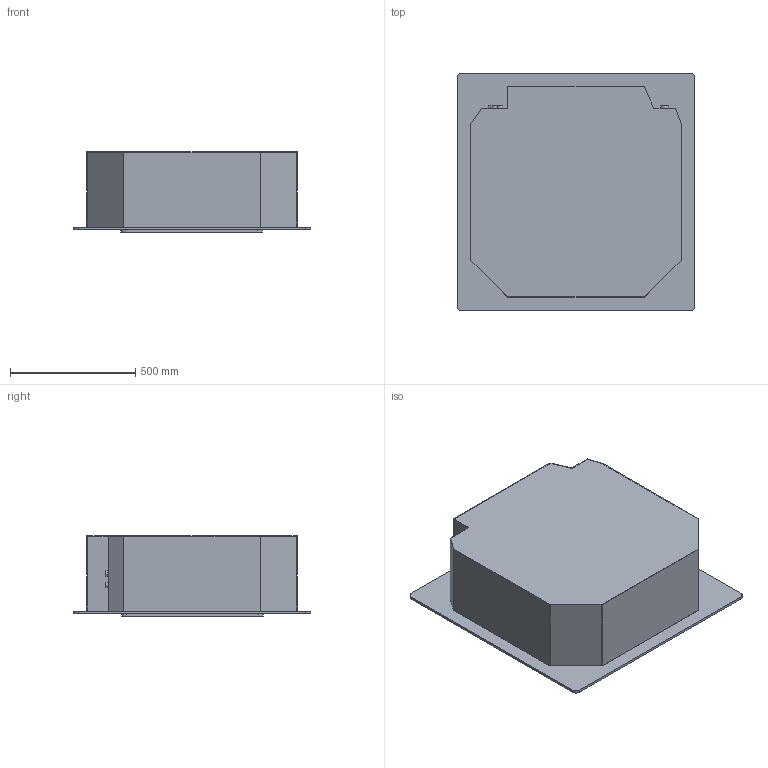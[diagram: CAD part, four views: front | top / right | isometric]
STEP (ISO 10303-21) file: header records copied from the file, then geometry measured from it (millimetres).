
FILE_DESCRIPTION(('FreeCAD Model'),'2;1');
FILE_NAME('Open CASCADE Shape Model','2026-04-13T07:05:19',(''),(''), 'Open CASCADE STEP processor 7.8','FreeCAD','Unknown');
FILE_SCHEMA(('AUTOMOTIVE_DESIGN { 1 0 10303 214 1 1 1 1 }'));
Length unit declared in the file: millimetre
Products named in the file (3): Cassette; Chasis Cassette; Cassette 1
Assembly tree (2 placements, depth 2):
  Cassette
    Chasis Cassette
    Cassette 1
Bounding box: 950 x 950 x 320 mm (x, y, z)
Volume: 12473410.1 mm3; surface area: 5136193.8 mm2
Topology: 2 solids, 2 shells, 333 faces, 882 edges, 588 vertices
Faces by surface type: plane 203, cylinder 130
Full cylindrical faces by diameter (mm): 9.5 x1, 19 x1, 22.2 x1, 32 x1
Entity records: 10438 total; most frequent: DIRECTION 1814, CARTESIAN_POINT 1806, ORIENTED_EDGE 1764, EDGE_CURVE 882, LINE 622, VECTOR 622, AXIS2_PLACEMENT_3D 596, VERTEX_POINT 588
